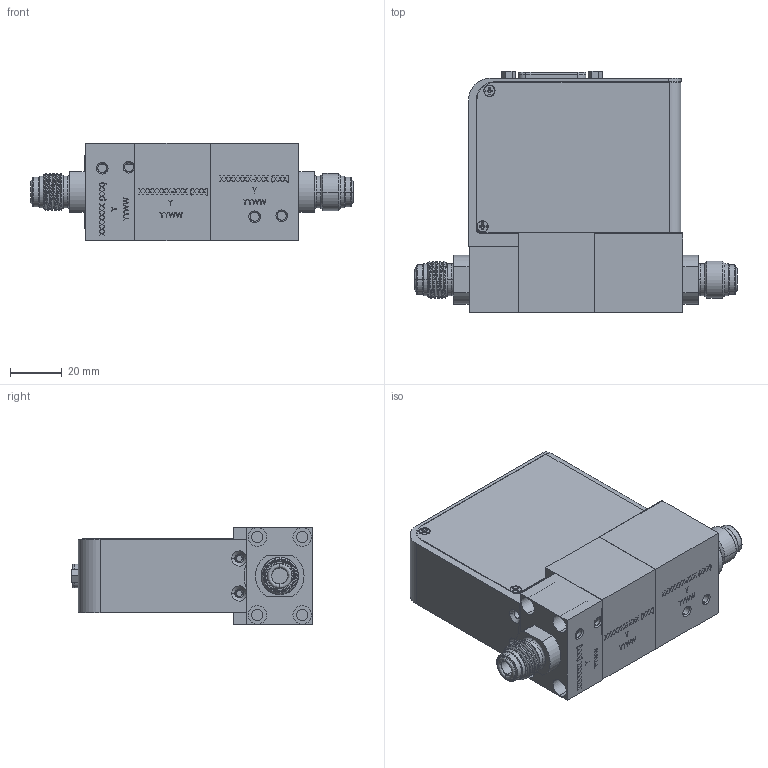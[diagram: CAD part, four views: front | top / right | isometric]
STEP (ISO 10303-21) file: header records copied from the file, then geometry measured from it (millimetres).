
FILE_DESCRIPTION (( 'STEP AP203' ), '1' );
FILE_NAME ('GF120XHT-VX-FLOW_MODULE.STEP', '2023-11-28T16:39:52', ( '' ), ( '' ), 'SwSTEP 2.0', 'SolidWorks 2020', '' );
FILE_SCHEMA (( 'CONFIG_CONTROL_DESIGN' ));
Length unit declared in the file: inch
Products named in the file (1): GF120XHT-VX-FLOW_MODULE
Bounding box: 124 x 92.91 x 37.6 mm (x, y, z)
Volume: 72528.2 mm3; surface area: 62486.1 mm2
Topology: 15 solids, 15 shells, 1700 faces, 4462 edges, 2899 vertices
Faces by surface type: plane 1011, cylinder 345, cone 197, bspline 122, torus 25
Entity records: 65573 total; most frequent: CARTESIAN_POINT 24668, ORIENTED_EDGE 8872, DIRECTION 7803, EDGE_CURVE 4436, VECTOR 2903, LINE 2903, VERTEX_POINT 2899, AXIS2_PLACEMENT_3D 2450
